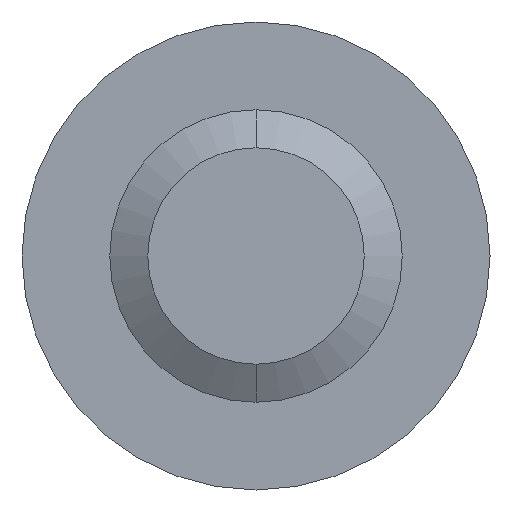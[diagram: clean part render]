
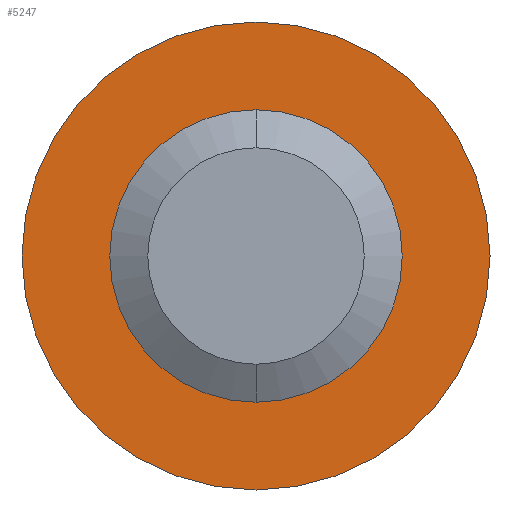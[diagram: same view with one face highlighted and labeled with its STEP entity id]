
A CAD part, front view. The second image highlights one B-rep face of the part: STEP entity #5247.
In plain terms, the highlighted planar face has unit normal (0, -1, 0).
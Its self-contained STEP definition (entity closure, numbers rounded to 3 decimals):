
#93 = CARTESIAN_POINT ( 'NONE',  ( 0., 80., 0. ) ) ;
#114 = EDGE_LOOP ( 'NONE', ( #1236, #1075 ) ) ;
#489 = DIRECTION ( 'NONE',  ( 0., 1., 0. ) ) ;
#593 = ORIENTED_EDGE ( 'NONE', *, *, #848, .F. ) ;
#729 = CARTESIAN_POINT ( 'NONE',  ( 0., 80., -8. ) ) ;
#821 = AXIS2_PLACEMENT_3D ( 'NONE', #4587, #1294, #5566 ) ;
#848 = EDGE_CURVE ( 'NONE', #1524, #5012, #2664, .T. ) ;
#1075 = ORIENTED_EDGE ( 'NONE', *, *, #3982, .T. ) ;
#1236 = ORIENTED_EDGE ( 'NONE', *, *, #5603, .T. ) ;
#1294 = DIRECTION ( 'NONE',  ( 0., 1., 0. ) ) ;
#1406 = DIRECTION ( 'NONE',  ( 0., 1., 0. ) ) ;
#1524 = VERTEX_POINT ( 'NONE', #729 ) ;
#1647 = AXIS2_PLACEMENT_3D ( 'NONE', #4199, #5184, #2450 ) ;
#1814 = CARTESIAN_POINT ( 'NONE',  ( 0., 80., 8. ) ) ;
#1842 = VERTEX_POINT ( 'NONE', #4804 ) ;
#1967 = FACE_BOUND ( 'NONE', #114, .T. ) ;
#2338 = CARTESIAN_POINT ( 'NONE',  ( 0., 80., 0. ) ) ;
#2425 = AXIS2_PLACEMENT_3D ( 'NONE', #93, #489, #3832 ) ;
#2450 = DIRECTION ( 'NONE',  ( 0., 0., 1. ) ) ;
#2664 = CIRCLE ( 'NONE', #821, 8. ) ;
#2670 = VERTEX_POINT ( 'NONE', #4831 ) ;
#2850 = PLANE ( 'NONE',  #2425 ) ;
#2919 = CIRCLE ( 'NONE', #1647, 5. ) ;
#3483 = CIRCLE ( 'NONE', #5160, 8. ) ;
#3488 = CARTESIAN_POINT ( 'NONE',  ( 0., 80., 0. ) ) ;
#3599 = AXIS2_PLACEMENT_3D ( 'NONE', #3488, #5306, #4874 ) ;
#3816 = EDGE_CURVE ( 'NONE', #5012, #1524, #3483, .T. ) ;
#3832 = DIRECTION ( 'NONE',  ( 0., 0., 1. ) ) ;
#3982 = EDGE_CURVE ( 'NONE', #1842, #2670, #4869, .T. ) ;
#4199 = CARTESIAN_POINT ( 'NONE',  ( 0., 80., 0. ) ) ;
#4303 = DIRECTION ( 'NONE',  ( 0., 0., 1. ) ) ;
#4497 = ORIENTED_EDGE ( 'NONE', *, *, #3816, .F. ) ;
#4587 = CARTESIAN_POINT ( 'NONE',  ( 0., 80., 0. ) ) ;
#4804 = CARTESIAN_POINT ( 'NONE',  ( 0., 80., 5. ) ) ;
#4831 = CARTESIAN_POINT ( 'NONE',  ( 0., 80., -5. ) ) ;
#4869 = CIRCLE ( 'NONE', #3599, 5. ) ;
#4874 = DIRECTION ( 'NONE',  ( 0., 0., 1. ) ) ;
#5012 = VERTEX_POINT ( 'NONE', #1814 ) ;
#5160 = AXIS2_PLACEMENT_3D ( 'NONE', #2338, #1406, #4303 ) ;
#5184 = DIRECTION ( 'NONE',  ( 0., 1., 0. ) ) ;
#5192 = FACE_OUTER_BOUND ( 'NONE', #5675, .T. ) ;
#5247 = ADVANCED_FACE ( 'NONE', ( #5192, #1967 ), #2850, .F. ) ;
#5306 = DIRECTION ( 'NONE',  ( 0., 1., 0. ) ) ;
#5566 = DIRECTION ( 'NONE',  ( 0., 0., 1. ) ) ;
#5603 = EDGE_CURVE ( 'NONE', #2670, #1842, #2919, .T. ) ;
#5675 = EDGE_LOOP ( 'NONE', ( #593, #4497 ) ) ;
